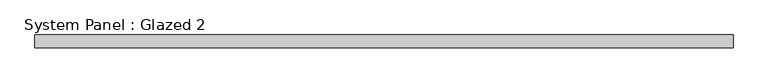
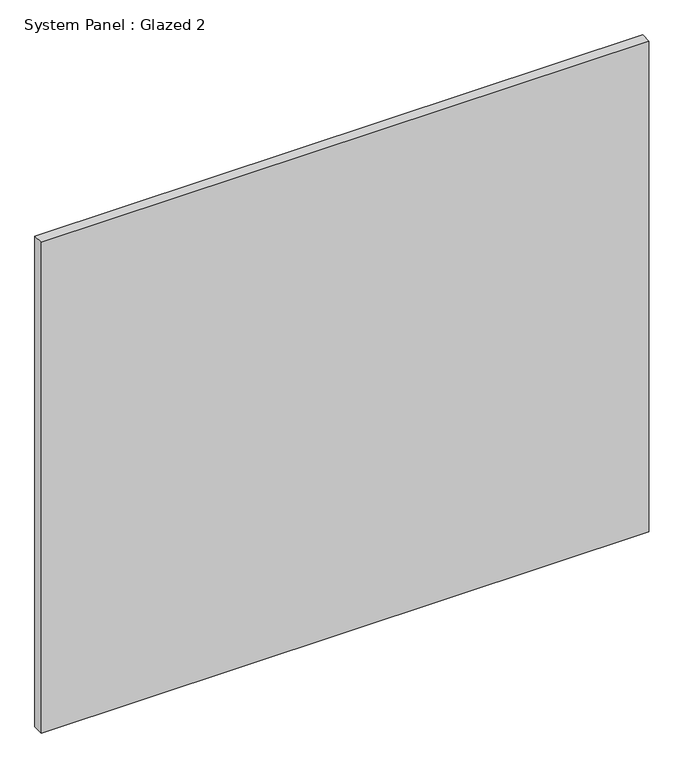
"""IFC4 building model written with IfcOpenShell, lengths in millimetres: plate geometry, System Panel : Glazed 2."""

import ifcopenshell
import ifcopenshell.guid

model = None  # the IFC model being written
_history = None  # IfcOwnerHistory: only IFC2X3 demands one
_inside = {}  # id of a spatial element -> (the spatial element, [elements in it])
_under = {}  # id of a project, library or spatial element -> (it, [spatial elements below it])
_declared = {}  # id of a project -> (the project, [libraries it declares])
_typed = {}  # id of a type object -> (the type object, [elements of that type])
_made_of = {}  # id of a material, layer set ... -> (it, [elements and type objects made of it])


def new_model(schema):
    """Start an empty IFC model of exactly this schema.

    Asked for "IFC4X3", IfcOpenShell would pick the latest addendum, in which some entities
    have other attributes; the version numbers below select the first issue.
    IFC2X3 requires an IfcOwnerHistory on every rooted entity: one is made here for all.
    """
    global model, _history
    if schema == "IFC4X3":
        model = ifcopenshell.file(schema_version=(4, 3, 0, 0))
    else:
        model = ifcopenshell.file(schema=schema)
    _inside.clear()
    _under.clear()
    _declared.clear()
    _typed.clear()
    _made_of.clear()
    _history = None
    if model.schema == "IFC2X3":
        org = make("IfcOrganization", Name="unknown")
        user = make(
            "IfcPersonAndOrganization",
            ThePerson=make("IfcPerson", FamilyName="unknown"),
            TheOrganization=org,
        )
        app = make(
            "IfcApplication",
            ApplicationDeveloper=org,
            Version="unknown",
            ApplicationFullName="unknown",
            ApplicationIdentifier="unknown",
        )
        _history = make(
            "IfcOwnerHistory",
            OwningUser=user,
            OwningApplication=app,
            ChangeAction="ADDED",
            CreationDate=0,
        )
    return model


def make(cls, **values):
    """One entity of the class cls with the attributes given. An attribute that is None is left unset."""
    return model.create_entity(
        cls, **{name: value for name, value in values.items() if value is not None}
    )


def rooted(cls, **values):
    """An entity with a GlobalId (a new one), such as an element, a storey or a relation."""
    return make(cls, GlobalId=ifcopenshell.guid.new(), OwnerHistory=_history, **values)


def si_unit(unit_type, name, prefix=None):
    """IfcSIUnit, for example si_unit("LENGTHUNIT", "METRE", prefix="MILLI")."""
    return make("IfcSIUnit", UnitType=unit_type, Prefix=prefix, Name=name)


def assignment(units):
    """IfcUnitAssignment: the units of a project."""
    return None if units is None else make("IfcUnitAssignment", Units=units)


def point(xyz):
    """IfcCartesianPoint."""
    return None if xyz is None else make("IfcCartesianPoint", Coordinates=xyz)


def direction(xyz):
    """IfcDirection."""
    return None if xyz is None else make("IfcDirection", DirectionRatios=xyz)


def frame(location, z_axis=None, x_axis=None):
    """IfcAxis2Placement3D, a coordinate frame: its origin and axes. An axis left out is left unset."""
    return make(
        "IfcAxis2Placement3D",
        Location=point(location),
        Axis=direction(z_axis),
        RefDirection=direction(x_axis),
    )


def origin():
    """The frame at (0, 0, 0) with its axes left unset."""
    return frame((0.0, 0.0, 0.0))


def origin_with_axes():
    """The frame at (0, 0, 0) with the z axis (0, 0, 1) and the x axis (1, 0, 0) written out."""
    return frame((0.0, 0.0, 0.0), z_axis=(0.0, 0.0, 1.0), x_axis=(1.0, 0.0, 0.0))


def place(relative_to, where):
    """IfcLocalPlacement: puts the frame where relative to a parent placement (None: the world)."""
    return make(
        "IfcLocalPlacement", PlacementRelTo=relative_to, RelativePlacement=where
    )


def context(
    kind, dimensions, precision=None, world=None, true_north=None, identifier=None
):
    """IfcGeometricRepresentationContext, for example the 3D "Model" context."""
    return make(
        "IfcGeometricRepresentationContext",
        ContextIdentifier=identifier,
        ContextType=kind,
        CoordinateSpaceDimension=dimensions,
        Precision=precision,
        WorldCoordinateSystem=world,
        TrueNorth=true_north,
    )


def project(units=None, contexts=None):
    """IfcProject with its units and contexts."""
    return rooted(
        "IfcProject",
        Name="project",
        RepresentationContexts=contexts,
        UnitsInContext=assignment(units),
    )


def spatial(cls, under=None, at=None, **own):
    """A site, building, storey or space (cls), placed at a placement, below another one or the project."""
    s = rooted(cls, ObjectPlacement=at, **own)
    if under is not None:
        _under.setdefault(under.id(), (under, []))[1].append(s)
    return s


def polyline(points):
    """IfcPolyline through the points."""
    return make("IfcPolyline", Points=[point(p) for p in points])


def outline(outer, holes=None, kind="AREA"):
    """IfcArbitraryClosedProfileDef: a profile drawn as a closed curve; with holes, ...WithVoids."""
    if holes is None:
        return make("IfcArbitraryClosedProfileDef", ProfileType=kind, OuterCurve=outer)
    return make(
        "IfcArbitraryProfileDefWithVoids",
        ProfileType=kind,
        OuterCurve=outer,
        InnerCurves=holes,
    )


def extrude(swept, where, along, depth):
    """IfcExtrudedAreaSolid: the profile swept, set in the frame where, extruded along a direction by depth."""
    return make(
        "IfcExtrudedAreaSolid",
        SweptArea=swept,
        Position=where,
        ExtrudedDirection=direction(along),
        Depth=depth,
    )


def shape(context_of_items, identifier, shape_type, items):
    """IfcShapeRepresentation: the items that make up one representation, for example the "Body"."""
    return make(
        "IfcShapeRepresentation",
        ContextOfItems=context_of_items,
        RepresentationIdentifier=identifier,
        RepresentationType=shape_type,
        Items=items,
    )


def source(mapping_origin, context_of_items, identifier, shape_type, items):
    """IfcRepresentationMap: a shape defined once, which mapped items show again and again."""
    return make(
        "IfcRepresentationMap",
        MappingOrigin=mapping_origin,
        MappedRepresentation=shape(context_of_items, identifier, shape_type, items),
    )


def transform(
    local_origin,
    x_axis=None,
    y_axis=None,
    z_axis=None,
    scale=None,
    scale2=None,
    scale3=None,
    uniform=True,
):
    """IfcCartesianTransformationOperator3D, or its non-uniform kind. x_axis, y_axis, z_axis: its Axis1, 2, 3."""
    if uniform:
        return make(
            "IfcCartesianTransformationOperator3D",
            Axis1=direction(x_axis),
            Axis2=direction(y_axis),
            LocalOrigin=point(local_origin),
            Scale=scale,
            Axis3=direction(z_axis),
        )
    return make(
        "IfcCartesianTransformationOperator3DnonUniform",
        Axis1=direction(x_axis),
        Axis2=direction(y_axis),
        LocalOrigin=point(local_origin),
        Scale=scale,
        Axis3=direction(z_axis),
        Scale2=scale2,
        Scale3=scale3,
    )


def mapped(mapping_source, mapping_target):
    """IfcMappedItem: shows the shape of a source again, moved by a transform."""
    return make(
        "IfcMappedItem", MappingSource=mapping_source, MappingTarget=mapping_target
    )


def made_of(thing, what):
    """Note that an element or type object is made of a material, layer set ...; save() writes the relation."""
    if what is not None:
        _made_of.setdefault(what.id(), (what, []))[1].append(thing)
    return thing


def element(
    cls,
    number,
    at=None,
    inside=None,
    cuts=None,
    type_object=None,
    material=None,
    context=None,
    identifier="Body",
    shape_type=None,
    held_by="IfcProductDefinitionShape",
    body=None,
    shapes=None,
    **own,
):
    """One element of the class cls, such as IfcWall. Its Tag is "e" and its number.

    at: its placement. inside: the storey or other place that contains it. cuts: it is an
    opening in that element (IfcRelVoidsElement). A single representation is given by context,
    identifier, shape_type and body (its items); several are given by shapes. held_by: the class
    of the entity that holds the representations. save() writes the other relations.
    """
    e = rooted(cls, Tag="e%d" % number, ObjectPlacement=at, **own)
    if body is not None:
        shapes = [shape(context, identifier, shape_type, body)]
    if shapes is not None:
        e.Representation = make(held_by, Representations=shapes)
    if inside is not None:
        _inside.setdefault(inside.id(), (inside, []))[1].append(e)
    if cuts is not None:
        rooted(
            "IfcRelVoidsElement", RelatingBuildingElement=cuts, RelatedOpeningElement=e
        )
    if type_object is not None:
        _typed.setdefault(type_object.id(), (type_object, []))[1].append(e)
    return made_of(e, material)


def aggregate(whole, parts):
    """IfcRelAggregates: a whole, such as a stair, and the parts it consists of."""
    return rooted("IfcRelAggregates", RelatingObject=whole, RelatedObjects=parts)


def save(model, path):
    """Write the relations noted so far, then the file.

    IfcRelAggregates (storeys below a building ...), IfcRelContainedInSpatialStructure (elements
    in a storey), IfcRelDefinesByType, IfcRelAssociatesMaterial and IfcRelDeclares: one each for
    every whole, place, type object, material and project.
    """
    for whole, parts in _under.values():
        aggregate(whole, parts)
    for where, things in _inside.values():
        rooted(
            "IfcRelContainedInSpatialStructure",
            RelatedElements=things,
            RelatingStructure=where,
        )
    for kind, things in _typed.values():
        rooted("IfcRelDefinesByType", RelatedObjects=things, RelatingType=kind)
    for what, things in _made_of.values():
        rooted("IfcRelAssociatesMaterial", RelatedObjects=things, RelatingMaterial=what)
    for by, libraries in _declared.values():
        rooted("IfcRelDeclares", RelatingContext=by, RelatedDefinitions=libraries)
    model.write(path)


def system_panel_glazed_2_8b46f89c(model_context):
    return source(origin(), model_context, "Body", "SweptSolid", [
        extrude(outline(polyline([(699.2, -44.45), (-699.2, -44.45), (-699.2, -19.05), (699.2, -19.05), (699.2, -44.45)])), origin_with_axes(), (0.0, 0.0, 1.0), 1193.8),
    ])


if __name__ == "__main__":
    model = new_model("IFC4")
    model_context = context("Model", 3, world=origin())
    ifc_project = project(units=[si_unit("LENGTHUNIT", "METRE", prefix="MILLI")], contexts=[model_context])
    site = spatial("IfcSite", under=ifc_project)
    building = spatial("IfcBuilding", under=site)
    placement = place(None, origin())
    system_panel_glazed_2_shape = system_panel_glazed_2_8b46f89c(model_context)
    element("IfcPlate", 1, ObjectType="System Panel : Glazed 2", at=placement, inside=building, context=model_context, shape_type="MappedRepresentation", body=[
        mapped(system_panel_glazed_2_shape, transform((0.0, 0.0, 0.0), x_axis=(1.0, 0.0, 0.0), y_axis=(0.0, 1.0, 0.0), z_axis=(0.0, 0.0, 1.0))),
    ])
    save(model, "model.ifc")
